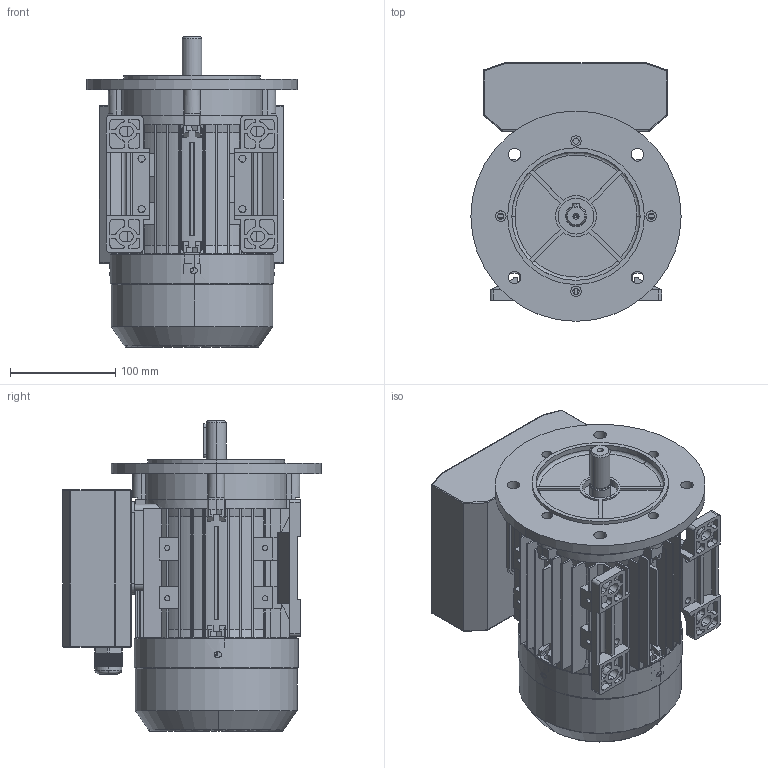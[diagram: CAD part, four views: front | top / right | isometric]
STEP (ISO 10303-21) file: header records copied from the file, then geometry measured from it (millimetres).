
FILE_DESCRIPTION (( 'STEP AP214' ), '1' );
FILE_NAME ('ML80 _B35.STEP', '2014-04-28T11:29:41', ( '' ), ( '' ), 'SwSTEP 2.0', 'SolidWorks 2012', '' );
FILE_SCHEMA (( 'AUTOMOTIVE_DESIGN' ));
Length unit declared in the file: millimetre
Products named in the file (8): B5-Flansch_MS80; Lüfterhaube_MS80; Fuss_MS80; Kabelverschraubung_M20; Klemmenkasten_ML80; B-Lagerschild_MS80_TENV; Gehäuse_MS80; ML80 _B35
Assembly tree (8 placements, depth 2):
  ML80 _B35
    Gehäuse_MS80
    B-Lagerschild_MS80_TENV
    Klemmenkasten_ML80
    Kabelverschraubung_M20
    Fuss_MS80  x2
    Lüfterhaube_MS80
    B5-Flansch_MS80
Bounding box: 200 x 246 x 295.38 mm (x, y, z)
Volume: 2657014.2 mm3; surface area: 658603.1 mm2
Topology: 9 solids, 9 shells, 1951 faces, 5270 edges, 3390 vertices
Faces by surface type: plane 1365, cylinder 456, cone 92, bspline 22, sphere 16
Entity records: 59592 total; most frequent: CARTESIAN_POINT 13092, ORIENTED_EDGE 9860, DIRECTION 9137, EDGE_CURVE 4930, VECTOR 3431, LINE 3431, VERTEX_POINT 3172, AXIS2_PLACEMENT_3D 2853
